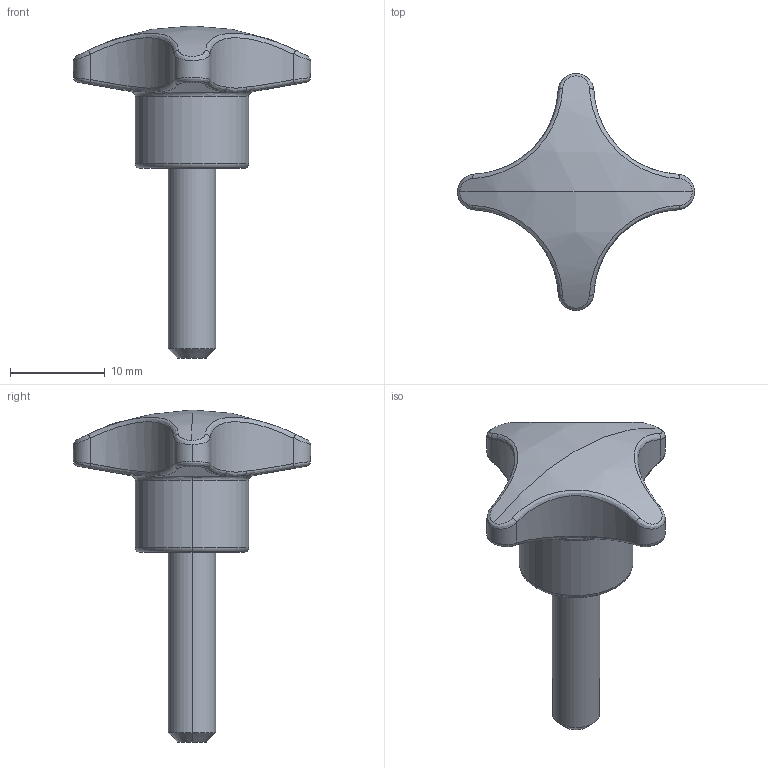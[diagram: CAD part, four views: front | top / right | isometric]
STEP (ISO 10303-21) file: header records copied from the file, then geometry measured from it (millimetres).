
FILE_DESCRIPTION (( 'STEP AP214' ), '1' );
FILE_NAME ('1121 25 501.STEP', '2010-11-26T15:40:37', ( 'Marc' ), ( '' ), 'SwSTEP 2.0', 'SolidWorks 2010', '' );
FILE_SCHEMA (( 'AUTOMOTIVE_DESIGN' ));
Length unit declared in the file: millimetre
Products named in the file (1): 1121 25 501
Bounding box: 25 x 24.99 x 35 mm (x, y, z)
Volume: 2896.7 mm3; surface area: 1675.6 mm2
Topology: 2 solids, 2 shells, 63 faces, 137 edges, 80 vertices
Faces by surface type: bspline 24, cylinder 17, torus 8, cone 7, plane 5, sphere 2
Entity records: 6801 total; most frequent: CARTESIAN_POINT 5338, ORIENTED_EDGE 274, DIRECTION 228, EDGE_CURVE 137, AXIS2_PLACEMENT_3D 104, VERTEX_POINT 80, EDGE_LOOP 65, CIRCLE 64
